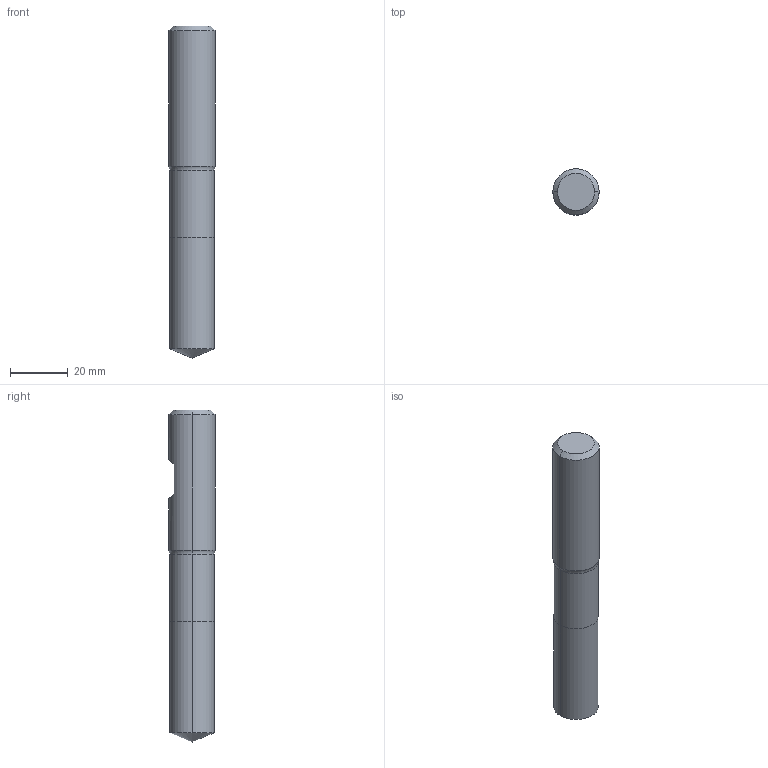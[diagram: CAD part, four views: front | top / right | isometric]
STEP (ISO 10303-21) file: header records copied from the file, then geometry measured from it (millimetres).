
FILE_DESCRIPTION (( 'STEP AP214' ), '1' );
FILE_NAME ('843.155.10_3D-model.step', '2022-02-24T03:31:55', ( '' ), ( '' ), 'SwSTEP 2.0', 'SolidWorks 2020', '' );
FILE_SCHEMA (( 'AUTOMOTIVE_DESIGN' ));
Length unit declared in the file: millimetre
Products named in the file (3): 843.155.10_3D-model; NOCUT-3D^Baugr106; CUT-3D^Baugr106
Assembly tree (2 placements, depth 2):
  843.155.10_3D-model
    CUT-3D^Baugr106
    NOCUT-3D^Baugr106
Bounding box: 16 x 16 x 115 mm (x, y, z)
Volume: 21700.2 mm3; surface area: 6255.1 mm2
Topology: 2 solids, 2 shells, 18 faces, 34 edges, 19 vertices
Faces by surface type: cylinder 6, plane 6, cone 4, torus 2
Entity records: 558 total; most frequent: DIRECTION 98, CARTESIAN_POINT 83, ORIENTED_EDGE 64, AXIS2_PLACEMENT_3D 42, EDGE_CURVE 32, VERTEX_POINT 19, EDGE_LOOP 19, FACE_OUTER_BOUND 18
